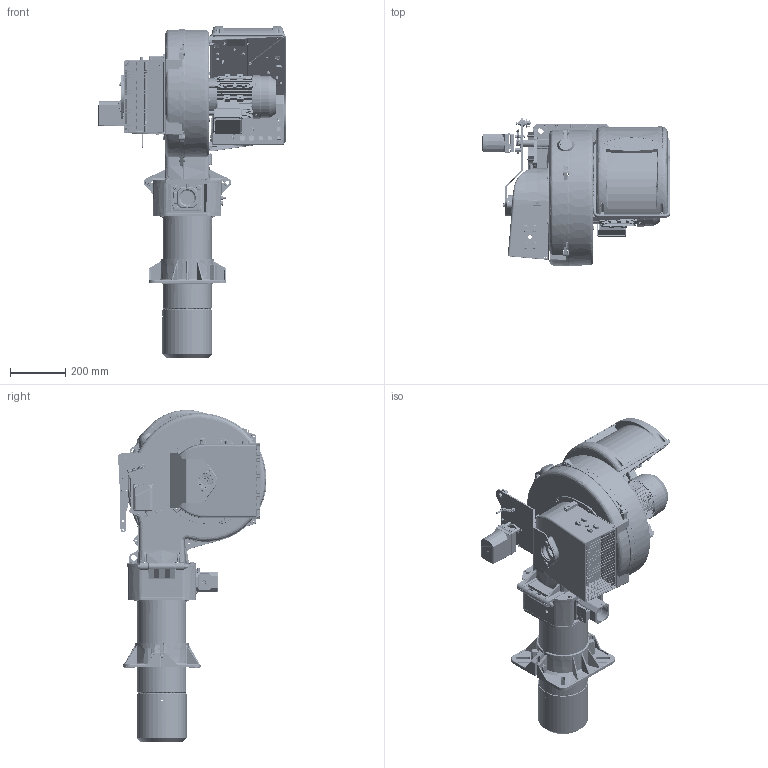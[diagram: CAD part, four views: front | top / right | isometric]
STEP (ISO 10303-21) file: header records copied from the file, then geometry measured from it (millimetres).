
FILE_DESCRIPTION (( 'STEP AP203' ), '1' );
FILE_NAME ('17540010-110023.STEP', '2016-11-03T13:36:34', ( '' ), ( '' ), 'SwSTEP 2.0', 'SolidWorks 2016', '' );
FILE_SCHEMA (( 'CONFIG_CONTROL_DESIGN' ));
Products named in the file (1): 17540010-110023
Bounding box: 678.75 x 538.97 x 1201.73 mm (x, y, z)
Surface area: 3290774.6 mm2 (no closed solid volume)
Topology: 0 solids, 342 shells, 4165 faces, 19332 edges, 14765 vertices
Faces by surface type: plane 2038, cylinder 1020, bspline 876, cone 188, torus 32, sphere 11
Full cylindrical faces by diameter (mm): 3.5 x1, 3.7 x6, 3.9 x1, 4 x1, 4.2 x5, 4.5 x2, 4.7 x2, 4.8 x3, 5 x16, 5.1 x1, 5.2 x1, 5.4 x2, 5.5 x2, 5.857 x2, 6 x5, 6.2 x1, 6.8 x2, 7 x11, 7.5 x1, 8 x27, 8.2 x1, 8.3 x2, 8.5 x1, 9 x2, 9.64 x1, 10 x2, 10.2 x2, 11.57 x1, 11.9 x1, 12 x2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
Entity records: 326535 total; most frequent: CARTESIAN_POINT 193226, ORIENTED_EDGE 26191, DIRECTION 20779, EDGE_CURVE 18844, VERTEX_POINT 14644, LINE 9235, VECTOR 9235, B_SPLINE_CURVE_WITH_KNOTS 6708
